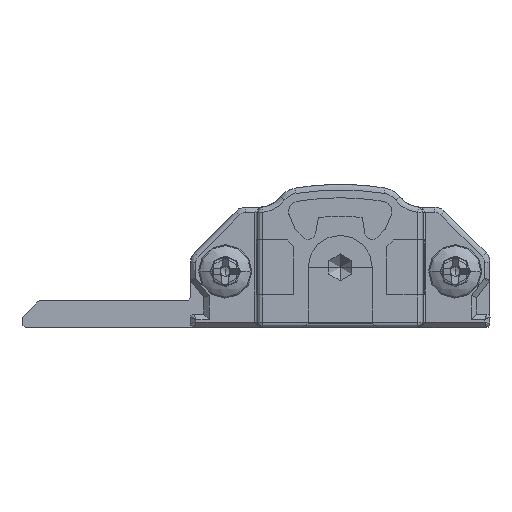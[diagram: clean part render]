
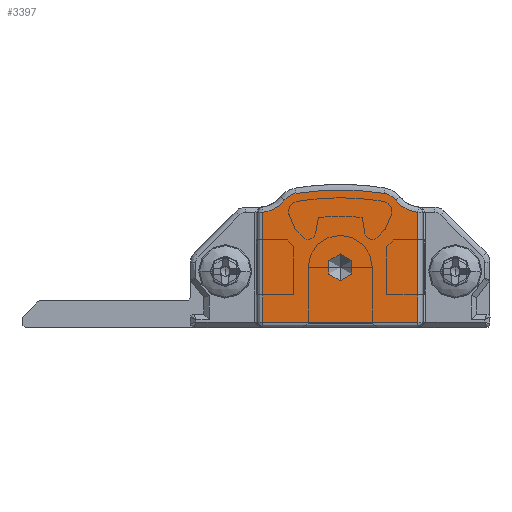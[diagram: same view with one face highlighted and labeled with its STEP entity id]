
A CAD part, front view. The second image highlights one B-rep face of the part: STEP entity #3397.
In plain terms, the highlighted planar face has unit normal (0, -1, 0).
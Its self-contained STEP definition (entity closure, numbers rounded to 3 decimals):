
#159 = VECTOR ( 'NONE', #3482, 1000. ) ;
#1155 = DIRECTION ( 'NONE',  ( 0., -1., 0. ) ) ;
#1226 = AXIS2_PLACEMENT_3D ( 'NONE', #37743, #6018, #6242 ) ;
#1495 = VERTEX_POINT ( 'NONE', #42496 ) ;
#3397 = ADVANCED_FACE ( 'NONE', ( #7952, #42651 ), #32571, .T. ) ;
#3482 = DIRECTION ( 'NONE',  ( 1., 0., 0. ) ) ;
#3980 = ORIENTED_EDGE ( 'NONE', *, *, #12126, .T. ) ;
#5304 = VERTEX_POINT ( 'NONE', #28292 ) ;
#6018 = DIRECTION ( 'NONE',  ( 0., -1., 0. ) ) ;
#6159 = DIRECTION ( 'NONE',  ( 0., -1., 0. ) ) ;
#6242 = DIRECTION ( 'NONE',  ( 0., 0., -1. ) ) ;
#7075 = VECTOR ( 'NONE', #41326, 1000. ) ;
#7547 = ORIENTED_EDGE ( 'NONE', *, *, #35110, .T. ) ;
#7952 = FACE_OUTER_BOUND ( 'NONE', #34831, .T. ) ;
#8787 = AXIS2_PLACEMENT_3D ( 'NONE', #38642, #24690, #14643 ) ;
#10347 = CARTESIAN_POINT ( 'NONE',  ( 5.162, -15., 11. ) ) ;
#10457 = CIRCLE ( 'NONE', #17725, 1. ) ;
#10562 = DIRECTION ( 'NONE',  ( 0., 1., 0. ) ) ;
#10928 = VERTEX_POINT ( 'NONE', #36857 ) ;
#11322 = LINE ( 'NONE', #14741, #21104 ) ;
#12126 = EDGE_CURVE ( 'NONE', #42655, #34113, #31317, .T. ) ;
#13658 = DIRECTION ( 'NONE',  ( 0., 0., -1. ) ) ;
#13879 = DIRECTION ( 'NONE',  ( 0., -1., 0. ) ) ;
#14643 = DIRECTION ( 'NONE',  ( 0., 0., -1. ) ) ;
#14720 = AXIS2_PLACEMENT_3D ( 'NONE', #39695, #1155, #22300 ) ;
#14741 = CARTESIAN_POINT ( 'NONE',  ( 17., -15., 8.612 ) ) ;
#14983 = CIRCLE ( 'NONE', #1226, 1.3 ) ;
#16409 = AXIS2_PLACEMENT_3D ( 'NONE', #29392, #32580, #36489 ) ;
#17433 = EDGE_LOOP ( 'NONE', ( #20540, #40172 ) ) ;
#17725 = AXIS2_PLACEMENT_3D ( 'NONE', #28234, #13879, #24604 ) ;
#17762 = EDGE_CURVE ( 'NONE', #42581, #10928, #10457, .T. ) ;
#17859 = CIRCLE ( 'NONE', #16409, 20.676 ) ;
#18680 = EDGE_CURVE ( 'NONE', #5304, #22863, #17859, .T. ) ;
#20402 = CIRCLE ( 'NONE', #8787, 1.3 ) ;
#20540 = ORIENTED_EDGE ( 'NONE', *, *, #39368, .F. ) ;
#20564 = LINE ( 'NONE', #45045, #159 ) ;
#21104 = VECTOR ( 'NONE', #42408, 1000. ) ;
#22145 = ORIENTED_EDGE ( 'NONE', *, *, #41522, .T. ) ;
#22237 = CARTESIAN_POINT ( 'NONE',  ( 17., -15., 8.612 ) ) ;
#22300 = DIRECTION ( 'NONE',  ( 0., 0., -1. ) ) ;
#22863 = VERTEX_POINT ( 'NONE', #36233 ) ;
#23319 = CARTESIAN_POINT ( 'NONE',  ( 17., -15., 0.4 ) ) ;
#24072 = ORIENTED_EDGE ( 'NONE', *, *, #25124, .T. ) ;
#24297 = CARTESIAN_POINT ( 'NONE',  ( 5.4, -15., 8.612 ) ) ;
#24604 = DIRECTION ( 'NONE',  ( 0., 0., -1. ) ) ;
#24690 = DIRECTION ( 'NONE',  ( 0., -1., 0. ) ) ;
#24836 = ORIENTED_EDGE ( 'NONE', *, *, #34466, .T. ) ;
#25124 = EDGE_CURVE ( 'NONE', #39977, #5304, #14983, .T. ) ;
#25570 = AXIS2_PLACEMENT_3D ( 'NONE', #10347, #10562, #44840 ) ;
#26997 = VERTEX_POINT ( 'NONE', #23319 ) ;
#27368 = CARTESIAN_POINT ( 'NONE',  ( 5.4, -15., 0.4 ) ) ;
#28234 = CARTESIAN_POINT ( 'NONE',  ( 11.2, -15., 4.5 ) ) ;
#28261 = ORIENTED_EDGE ( 'NONE', *, *, #18680, .T. ) ;
#28292 = CARTESIAN_POINT ( 'NONE',  ( 14.508, -15., 10.034 ) ) ;
#28386 = AXIS2_PLACEMENT_3D ( 'NONE', #41075, #37649, #44742 ) ;
#29392 = CARTESIAN_POINT ( 'NONE',  ( 11.2, -15., -10.376 ) ) ;
#30280 = CIRCLE ( 'NONE', #40599, 1. ) ;
#30346 = CARTESIAN_POINT ( 'NONE',  ( 11.2, -15., 4.5 ) ) ;
#30724 = EDGE_CURVE ( 'NONE', #34113, #1495, #37906, .T. ) ;
#31317 = CIRCLE ( 'NONE', #25570, 2.4 ) ;
#32571 = PLANE ( 'NONE',  #14720 ) ;
#32580 = DIRECTION ( 'NONE',  ( 0., -1., 0. ) ) ;
#33889 = CARTESIAN_POINT ( 'NONE',  ( 15.332, -15., 9.541 ) ) ;
#34113 = VERTEX_POINT ( 'NONE', #24297 ) ;
#34466 = EDGE_CURVE ( 'NONE', #22863, #42655, #20402, .T. ) ;
#34537 = ORIENTED_EDGE ( 'NONE', *, *, #43108, .T. ) ;
#34831 = EDGE_LOOP ( 'NONE', ( #34537, #22145, #24072, #28261, #24836, #3980, #43443, #7547 ) ) ;
#35110 = EDGE_CURVE ( 'NONE', #1495, #26997, #20564, .T. ) ;
#36233 = CARTESIAN_POINT ( 'NONE',  ( 7.892, -15., 10.034 ) ) ;
#36489 = DIRECTION ( 'NONE',  ( 0., 0., -1. ) ) ;
#36857 = CARTESIAN_POINT ( 'NONE',  ( 11.2, -15., 3.5 ) ) ;
#37649 = DIRECTION ( 'NONE',  ( 0., 1., 0. ) ) ;
#37743 = CARTESIAN_POINT ( 'NONE',  ( 14.3, -15., 8.75 ) ) ;
#37906 = LINE ( 'NONE', #27368, #7075 ) ;
#38642 = CARTESIAN_POINT ( 'NONE',  ( 8.1, -15., 8.75 ) ) ;
#39031 = CARTESIAN_POINT ( 'NONE',  ( 7.068, -15., 9.541 ) ) ;
#39368 = EDGE_CURVE ( 'NONE', #10928, #42581, #30280, .T. ) ;
#39695 = CARTESIAN_POINT ( 'NONE',  ( 22.15, -15., 3.606 ) ) ;
#39977 = VERTEX_POINT ( 'NONE', #33889 ) ;
#40172 = ORIENTED_EDGE ( 'NONE', *, *, #17762, .F. ) ;
#40599 = AXIS2_PLACEMENT_3D ( 'NONE', #30346, #6159, #13658 ) ;
#40993 = VERTEX_POINT ( 'NONE', #22237 ) ;
#41075 = CARTESIAN_POINT ( 'NONE',  ( 17.238, -15., 11. ) ) ;
#41326 = DIRECTION ( 'NONE',  ( 0., 0., -1. ) ) ;
#41522 = EDGE_CURVE ( 'NONE', #40993, #39977, #42269, .T. ) ;
#41537 = CARTESIAN_POINT ( 'NONE',  ( 11.2, -15., 5.5 ) ) ;
#42269 = CIRCLE ( 'NONE', #28386, 2.4 ) ;
#42408 = DIRECTION ( 'NONE',  ( 0., 0., 1. ) ) ;
#42496 = CARTESIAN_POINT ( 'NONE',  ( 5.4, -15., 0.4 ) ) ;
#42581 = VERTEX_POINT ( 'NONE', #41537 ) ;
#42651 = FACE_BOUND ( 'NONE', #17433, .T. ) ;
#42655 = VERTEX_POINT ( 'NONE', #39031 ) ;
#43108 = EDGE_CURVE ( 'NONE', #26997, #40993, #11322, .T. ) ;
#43443 = ORIENTED_EDGE ( 'NONE', *, *, #30724, .T. ) ;
#44742 = DIRECTION ( 'NONE',  ( 0., 0., -1. ) ) ;
#44840 = DIRECTION ( 'NONE',  ( 0., 0., -1. ) ) ;
#45045 = CARTESIAN_POINT ( 'NONE',  ( 17., -15., 0.4 ) ) ;
